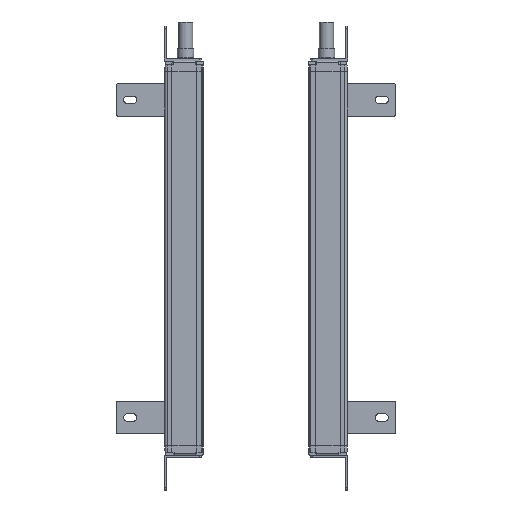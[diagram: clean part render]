
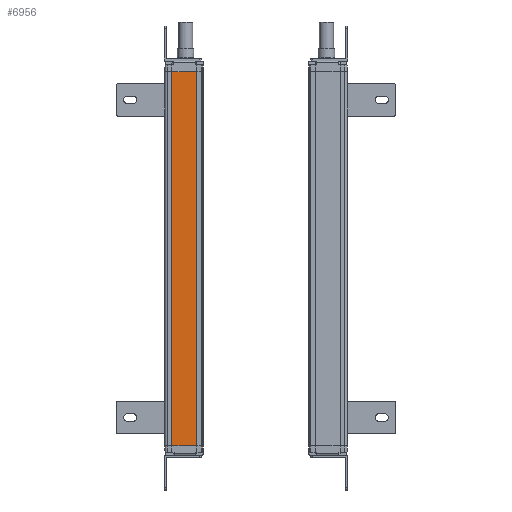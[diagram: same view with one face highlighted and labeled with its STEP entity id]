
A CAD part, left-side view. The second image highlights one B-rep face of the part: STEP entity #6956.
In plain terms, the highlighted planar face has unit normal (-1, 0, 0).
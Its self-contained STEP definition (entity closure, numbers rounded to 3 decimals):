
#953=FACE_OUTER_BOUND('',#9034,.T.);
#2188=LINE('',#33710,#4326);
#2290=LINE('',#34050,#4428);
#2291=LINE('',#34052,#4429);
#2292=LINE('',#34054,#4430);
#4326=VECTOR('',#26897,1.);
#4428=VECTOR('',#27185,1.);
#4429=VECTOR('',#27188,1.);
#4430=VECTOR('',#27189,1.);
#6178=PLANE('',#23723);
#6956=ADVANCED_FACE('',(#953),#6178,.T.);
#9034=EDGE_LOOP('',(#11681,#11682,#11683,#11684));
#11681=ORIENTED_EDGE('',*,*,#19828,.F.);
#11682=ORIENTED_EDGE('',*,*,#19829,.T.);
#11683=ORIENTED_EDGE('',*,*,#19830,.T.);
#11684=ORIENTED_EDGE('',*,*,#19658,.F.);
#17203=VERTEX_POINT('',#33709);
#17204=VERTEX_POINT('',#33711);
#17348=VERTEX_POINT('',#34049);
#17349=VERTEX_POINT('',#34053);
#19658=EDGE_CURVE('',#17203,#17204,#2188,.T.);
#19828=EDGE_CURVE('',#17348,#17203,#2290,.T.);
#19829=EDGE_CURVE('',#17348,#17349,#2291,.T.);
#19830=EDGE_CURVE('',#17349,#17204,#2292,.T.);
#23723=AXIS2_PLACEMENT_3D('',#34055,#27190,#27191);
#26897=DIRECTION('',(0.,-1.,0.));
#27185=DIRECTION('',(0.,0.,1.));
#27188=DIRECTION('',(0.,-1.,0.));
#27189=DIRECTION('',(0.,0.,1.));
#27190=DIRECTION('',(-1.,0.,0.));
#27191=DIRECTION('',(0.,-1.,0.));
#33709=CARTESIAN_POINT('',(233.846,104.141,31.645));
#33710=CARTESIAN_POINT('',(233.846,81.141,31.645));
#33711=CARTESIAN_POINT('',(233.846,81.141,31.645));
#34049=CARTESIAN_POINT('',(233.846,104.141,-313.355));
#34050=CARTESIAN_POINT('',(233.846,104.141,-155.355));
#34052=CARTESIAN_POINT('',(233.846,81.141,-313.355));
#34053=CARTESIAN_POINT('',(233.846,81.141,-313.355));
#34054=CARTESIAN_POINT('',(233.846,81.141,-155.355));
#34055=CARTESIAN_POINT('',(233.846,81.141,-50.355));
